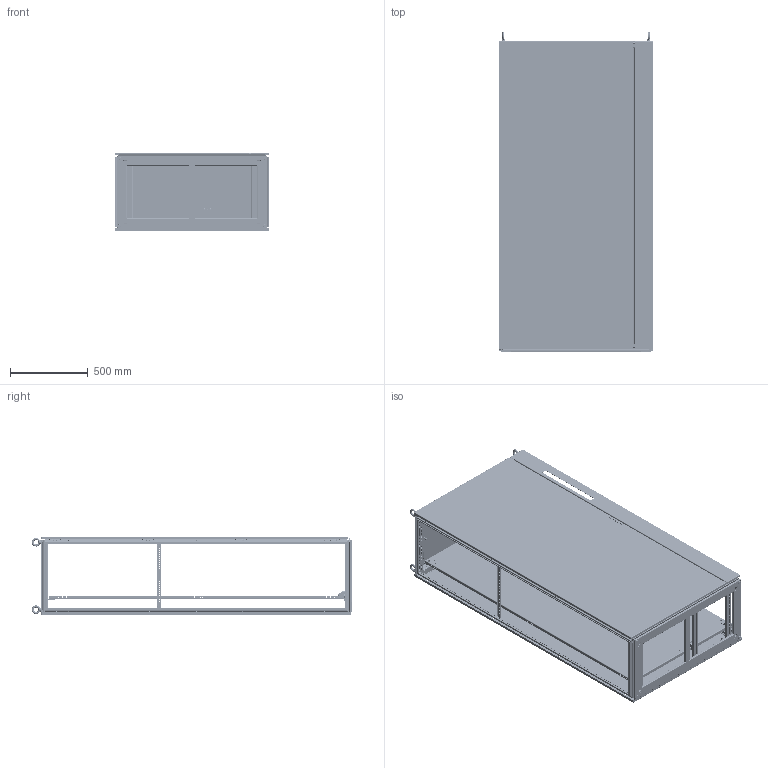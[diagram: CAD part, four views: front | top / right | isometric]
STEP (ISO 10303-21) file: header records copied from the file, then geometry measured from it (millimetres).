
FILE_DESCRIPTION((''),'2;1');
FILE_NAME('9951145_ASM','2015-03-11T',('us01724'),(''),'PRO/ENGINEER BY PARAMETRIC TECHNOLOGY CORPORATION, 2014310','PRO/ENGINEER BY PARAMETRIC TECHNOLOGY CORPORATION, 2014310','');
FILE_SCHEMA(('CONFIG_CONTROL_DESIGN'));
Products named in the file (58): D0242693_AF2; D0242693_AF3; D0242690_AF9; D0242690_AF8; D0242693; D0242690; D0242687; D0241135; D0275627_ASM; D0241538; D0241473; D0241151; D0208516; D0241463_TS_MPL_SLIDE_BLOCK_L; D0241464_TS_MPL_SLIDE_BLOCK_R; D0241469_TS_MPL_RETAINER_RIGHT; D0241468_TS_MPL_RETAINER_LEFT; D0271601; 211119; D0274958; D0043241; TS_GASKET_DOOR_FMDC_2000; D0242763_TS8_GROUND_STUD_M8; D0242763_TS8_CAP_M8; D0242763_ASM; D0207315; D0242679; D0041315; D0223916; D0043241_ASM; D0043309; TS_GASKET_DR_FMDC_LEFT_0920; D0233321; D0233331; D0214486; D0272092_ASM; D0241492; D0241496; D0042690; D0030693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
Assembly tree (139 placements, depth 4):
  9951145_ASM
    D0275627_ASM
      D0242693_AF2
      D0242693_AF3
      D0242690_AF9
      D0242690_AF8
      D0242693  x2
      D0242690  x2
      D0242687  x4
      D0241135  x8
    D0241538  x2
    D0241473  x2
    D0241151  x3
    D0208516  x2
    D0241463_TS_MPL_SLIDE_BLOCK_L
    D0241464_TS_MPL_SLIDE_BLOCK_R
    D0241469_TS_MPL_RETAINER_RIGHT
    D0241468_TS_MPL_RETAINER_LEFT
    D0271601
    211119
    D0274958  x8
    D0043241_ASM
      D0043241
      TS_GASKET_DOOR_FMDC_2000
      D0242763_ASM  x2
        D0242763_TS8_GROUND_STUD_M8
        D0242763_TS8_CAP_M8
      D0207315  x4
      D0242679  x3
      D0041315  x4
      D0223916
    D0043309_ASM
      D0043309
      TS_GASKET_DR_FMDC_LEFT_0920
      D0242763_ASM  x2
        D0242763_TS8_GROUND_STUD_M8
        D0242763_TS8_CAP_M8
      D0242679  x6
      D0207315  x4
      D0223916  x8
      D0272092_ASM
        D0233321  x2
        D0233331  x2
        D0214486  x4
      TS_LOCKBAR_ASSY_2000_DBL_ASM
        D0241492
        D0241496  x2
        D0042690  x2
        D0030693  x4
    D0290070_ASM
      D0275669
      TS_GASKET_ROOF_1005
      D0242763_ASM  x2
        D0242763_TS8_GROUND_STUD_M8
        D0242763_TS8_CAP_M8
    D0275871  x4
    D0275654_ASM
      TS_BASE_FRAME_MEM_500_NO_NOTCH  x2
      TS_BASE_FRAME_CORNER  x4
      TS_BASE_FRAME_MEM_1000  x2
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Bounding box: 997 x 2064.45 x 505.62 mm (x, y, z)
Volume: 19792131 mm3; surface area: 20230944.7 mm2
Topology: 153 solids, 161 shells, 21606 faces, 60705 edges, 39166 vertices
Faces by surface type: plane 12548, cylinder 7808, cone 412, torus 340, bspline 240, sphere 162, extrusion 96
Entity records: 309732 total; most frequent: CARTESIAN_POINT 58995, ORIENTED_EDGE 51290, DIRECTION 51158, EDGE_CURVE 25649, VECTOR 17762, LINE 17738, AXIS2_PLACEMENT_3D 16698, VERTEX_POINT 16615
